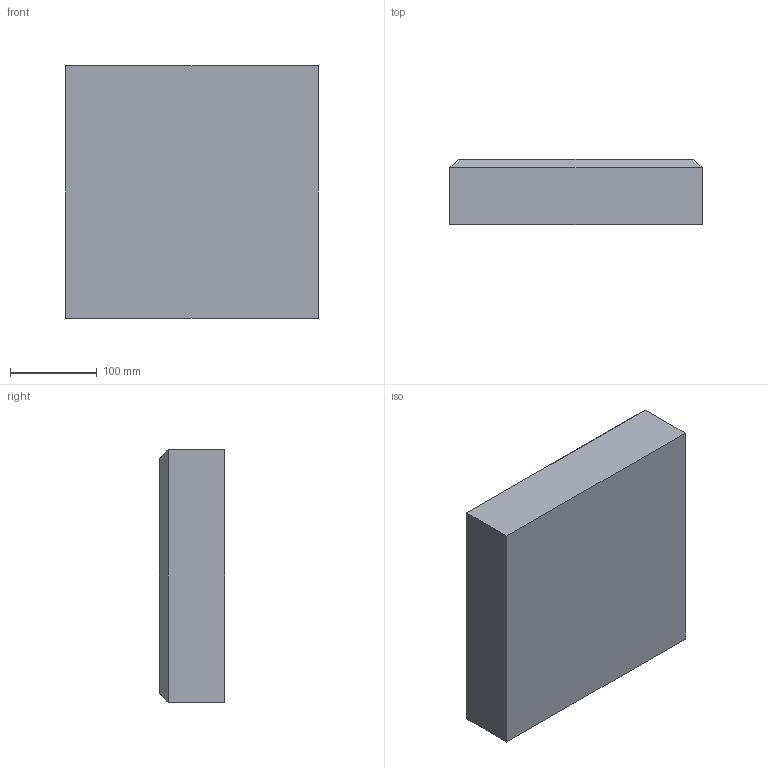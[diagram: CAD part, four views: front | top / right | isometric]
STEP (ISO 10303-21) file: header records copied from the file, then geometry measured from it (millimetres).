
FILE_DESCRIPTION (( 'STEP AP214' ), '1' );
FILE_NAME ('Pixel_75.STEP', '2016-06-08T07:36:22', ( '' ), ( '' ), 'SwSTEP 2.0', 'SolidWorks 2014', '' );
FILE_SCHEMA (( 'AUTOMOTIVE_DESIGN' ));
Length unit declared in the file: millimetre
Products named in the file (1): Pixel_75
Bounding box: 290 x 75 x 290 mm (x, y, z)
Volume: 6250833.3 mm3; surface area: 248239.2 mm2
Topology: 1 solids, 1 shells, 10 faces, 20 edges, 12 vertices
Faces by surface type: plane 10
Entity records: 286 total; most frequent: CARTESIAN_POINT 43, DIRECTION 42, ORIENTED_EDGE 40, EDGE_CURVE 20, VECTOR 20, LINE 20, VERTEX_POINT 12, AXIS2_PLACEMENT_3D 11
